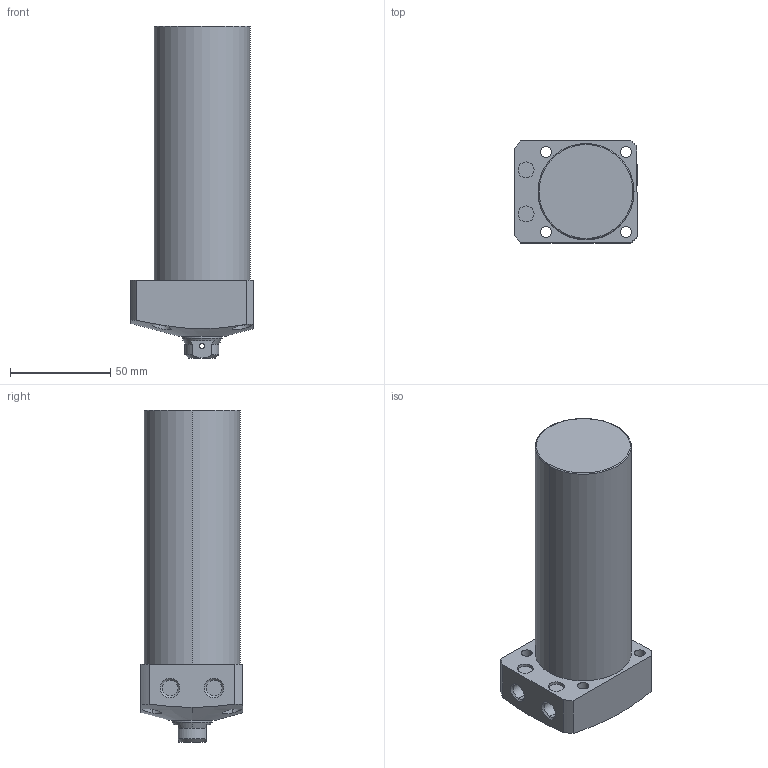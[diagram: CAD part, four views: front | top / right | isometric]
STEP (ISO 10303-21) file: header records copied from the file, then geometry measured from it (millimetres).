
FILE_DESCRIPTION (( 'STEP AP203' ), '1' );
FILE_NAME ('CLL048-CB-0100.STEP', '2017-05-17T10:52:25', ( '' ), ( '' ), 'SwSTEP 2.0', 'SolidWorks 2015', '' );
FILE_SCHEMA (( 'CONFIG_CONTROL_DESIGN' ));
Length unit declared in the file: millimetre
Products named in the file (1): CLL048-CB-0100
Bounding box: 61 x 51 x 166 mm (x, y, z)
Volume: 303978.2 mm3; surface area: 33966.1 mm2
Topology: 1 solids, 1 shells, 78 faces, 182 edges, 115 vertices
Faces by surface type: cylinder 39, plane 22, cone 15, torus 2
Entity records: 2751 total; most frequent: CARTESIAN_POINT 852, DIRECTION 394, ORIENTED_EDGE 360, EDGE_CURVE 180, AXIS2_PLACEMENT_3D 163, VERTEX_POINT 115, EDGE_LOOP 101, CIRCLE 84
